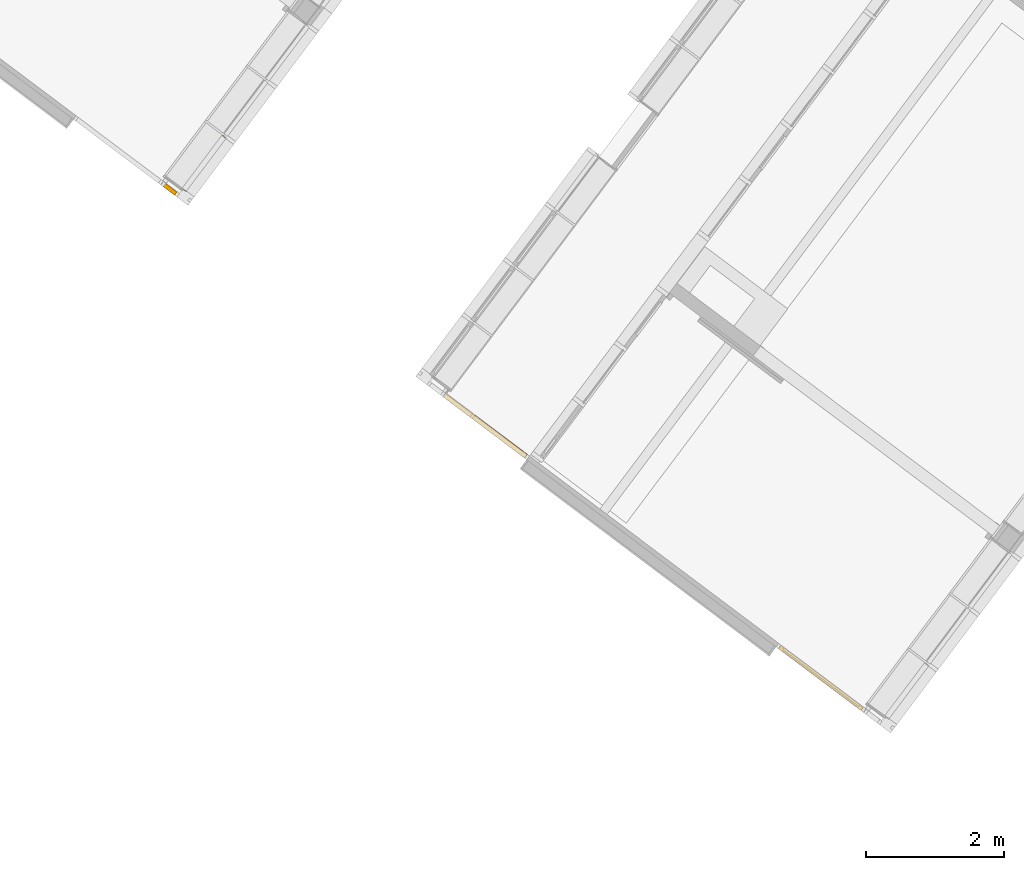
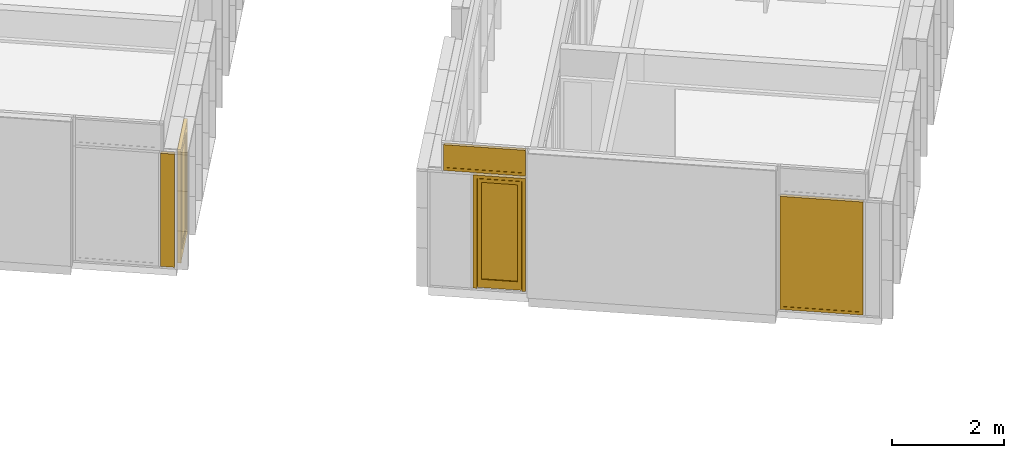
# One storey, part 173 of 243: 3 doors, 2 windows, 4 elements without a shape of their own.
"""IFC2X3 building model written with IfcOpenShell, lengths in metres."""

from ifc_helpers import new_model, entity, si_unit, converted_unit, derived_unit, direction, frame, origin, origin_2d_with_axis, place, context, subcontext, project, spatial, rectangle, extrude, faceted_brep, source, transform, mapped, material, material_list, type_object, type_shapes, element, aggregate, save


model = new_model("IFC2X3")

# Units and contexts
model_context = context("Model", 3, precision=1e-05, world=origin(), true_north=direction((6.123031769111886e-17, 1.0)))
body_context = subcontext(model_context, "Body", "Model", "MODEL_VIEW")
ifc_project = project(units=[si_unit("LENGTHUNIT", "METRE"), si_unit("AREAUNIT", "SQUARE_METRE"), si_unit("VOLUMEUNIT", "CUBIC_METRE"), converted_unit("PLANEANGLEUNIT", "DEGREE", entity("IfcRatioMeasure", 0.017453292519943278), si_unit("PLANEANGLEUNIT", "RADIAN"), dimensions=[0, 0, 0, 0, 0, 0, 0]), si_unit("MASSUNIT", "GRAM", prefix="KILO"), derived_unit("MASSDENSITYUNIT", [(si_unit("MASSUNIT", "GRAM", prefix="KILO"), 1), (si_unit("LENGTHUNIT", "METRE"), -3)]), derived_unit("IONCONCENTRATIONUNIT", [(si_unit("MASSUNIT", "GRAM", prefix="KILO"), 1), (si_unit("LENGTHUNIT", "METRE"), -3)]), derived_unit("MOMENTOFINERTIAUNIT", [(si_unit("LENGTHUNIT", "METRE"), 4)]), si_unit("TIMEUNIT", "SECOND"), si_unit("FREQUENCYUNIT", "HERTZ"), si_unit("THERMODYNAMICTEMPERATUREUNIT", "DEGREE_CELSIUS"), derived_unit("THERMALTRANSMITTANCEUNIT", [(si_unit("MASSUNIT", "GRAM", prefix="KILO"), 1), (si_unit("THERMODYNAMICTEMPERATUREUNIT", "KELVIN"), -1), (si_unit("TIMEUNIT", "SECOND"), -3)]), derived_unit("THERMALCONDUCTANCEUNIT", [(si_unit("MASSUNIT", "GRAM", prefix="KILO"), 1), (si_unit("THERMODYNAMICTEMPERATUREUNIT", "KELVIN"), -1), (si_unit("TIMEUNIT", "SECOND"), -3), (si_unit("LENGTHUNIT", "METRE"), 1)]), derived_unit("VOLUMETRICFLOWRATEUNIT", [(si_unit("LENGTHUNIT", "METRE"), 3), (si_unit("TIMEUNIT", "SECOND"), -1)]), derived_unit("MASSFLOWRATEUNIT", [(si_unit("MASSUNIT", "GRAM", prefix="KILO"), 1), (si_unit("TIMEUNIT", "SECOND"), -1)]), derived_unit("ROTATIONALFREQUENCYUNIT", [(si_unit("TIMEUNIT", "SECOND"), -1)]), si_unit("ELECTRICCURRENTUNIT", "AMPERE"), si_unit("ELECTRICVOLTAGEUNIT", "VOLT"), si_unit("POWERUNIT", "WATT"), si_unit("FORCEUNIT", "NEWTON", prefix="KILO"), si_unit("ILLUMINANCEUNIT", "LUX"), si_unit("LUMINOUSFLUXUNIT", "LUMEN"), si_unit("LUMINOUSINTENSITYUNIT", "CANDELA"), derived_unit("USERDEFINED", [(si_unit("MASSUNIT", "GRAM", prefix="KILO"), -1), (si_unit("LENGTHUNIT", "METRE"), -2), (si_unit("TIMEUNIT", "SECOND"), 3), (si_unit("LUMINOUSFLUXUNIT", "LUMEN"), 1)]), derived_unit("USERDEFINED", [(si_unit("MASSUNIT", "GRAM", prefix="KILO"), 1), (si_unit("TIMEUNIT", "SECOND"), -3), (si_unit("LENGTHUNIT", "METRE"), 3), (si_unit("ELECTRICCURRENTUNIT", "AMPERE"), -2)]), derived_unit("SOUNDPOWERUNIT", [(si_unit("MASSUNIT", "GRAM", prefix="KILO"), 1), (si_unit("TIMEUNIT", "SECOND"), -3), (si_unit("LENGTHUNIT", "METRE"), 2)]), derived_unit("SOUNDPRESSUREUNIT", [(si_unit("MASSUNIT", "GRAM", prefix="KILO"), 1), (si_unit("LENGTHUNIT", "METRE"), -1), (si_unit("TIMEUNIT", "SECOND"), -2)]), derived_unit("LINEARVELOCITYUNIT", [(si_unit("LENGTHUNIT", "METRE"), 1), (si_unit("TIMEUNIT", "SECOND"), -1)]), si_unit("PRESSUREUNIT", "PASCAL"), derived_unit("USERDEFINED", [(si_unit("MASSUNIT", "GRAM", prefix="KILO"), 1), (si_unit("LENGTHUNIT", "METRE"), -2), (si_unit("TIMEUNIT", "SECOND"), -2)]), derived_unit("LINEARFORCEUNIT", [(si_unit("MASSUNIT", "GRAM", prefix="KILO"), 1), (si_unit("TIMEUNIT", "SECOND"), -2)]), derived_unit("PLANARFORCEUNIT", [(si_unit("MASSUNIT", "GRAM", prefix="KILO"), 1), (si_unit("LENGTHUNIT", "METRE"), -1), (si_unit("TIMEUNIT", "SECOND"), -2)]), derived_unit("SPECIFICHEATCAPACITYUNIT", [(si_unit("THERMODYNAMICTEMPERATUREUNIT", "KELVIN"), -1), (si_unit("LENGTHUNIT", "METRE"), 2), (si_unit("TIMEUNIT", "SECOND"), -2)]), derived_unit("HEATINGVALUEUNIT", [(si_unit("LENGTHUNIT", "METRE"), 2), (si_unit("TIMEUNIT", "SECOND"), -2)]), derived_unit("VAPORPERMEABILITYUNIT", [(si_unit("LENGTHUNIT", "METRE"), -1), (si_unit("TIMEUNIT", "SECOND"), 1)]), derived_unit("DYNAMICVISCOSITYUNIT", [(si_unit("MASSUNIT", "GRAM", prefix="KILO"), 1), (si_unit("TIMEUNIT", "SECOND"), -1), (si_unit("LENGTHUNIT", "METRE"), -1)]), derived_unit("THERMALEXPANSIONCOEFFICIENTUNIT", [(si_unit("THERMODYNAMICTEMPERATUREUNIT", "KELVIN"), -1)]), derived_unit("MODULUSOFELASTICITYUNIT", [(si_unit("MASSUNIT", "GRAM", prefix="KILO"), 1), (si_unit("LENGTHUNIT", "METRE"), -1), (si_unit("TIMEUNIT", "SECOND"), -2)]), derived_unit("ISOTHERMALMOISTURECAPACITYUNIT", [(si_unit("LENGTHUNIT", "METRE"), 3), (si_unit("MASSUNIT", "GRAM", prefix="KILO"), -1)]), derived_unit("MOISTUREDIFFUSIVITYUNIT", [(si_unit("TIMEUNIT", "SECOND"), -1), (si_unit("LENGTHUNIT", "METRE"), 2)])], contexts=[model_context])

# Site, building, storey
site_placement = place(None, frame((0.0, 0.0, 235.0), z_axis=(0.0, 0.0, 1.0), x_axis=(-0.7996477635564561, 0.6004693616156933, 0.0)))
site = spatial("IfcSite", under=ifc_project, at=site_placement, Name="Default", CompositionType="ELEMENT")
building_placement = place(site_placement, origin())
building = spatial("IfcBuilding", under=site, at=building_placement, CompositionType="ELEMENT")
storey_placement = place(building_placement, origin())
storey = spatial("IfcBuildingStorey", under=building, at=storey_placement, Name="P0- Escola", CompositionType="ELEMENT", Elevation=0.0)

# Curtain wall, door
curtain_wall_type_1 = type_object("IfcCurtainWallType", Name="Muro cortina:MC- EXT- MC2", PredefinedType="NOTDEFINED")
curtain_wall_1_placement = place(storey_placement, origin())
curtain_wall_1 = element("IfcCurtainWall", 1, at=curtain_wall_1_placement, inside=storey, type_object=curtain_wall_type_1, Name="Muro cortina:MC- EXT- MC2", ObjectType="Muro cortina:MC- EXT- MC2")
ifc_material_1 = material(Name="_Alumini- T1- Perfil")
ifc_material_2 = material(Name="_Vidre")
ifc_material_list_1 = material_list([ifc_material_1, ifc_material_2])
door_style_1 = type_object("IfcDoorStyle", Name="MC- Alu- Conjunt porta- 70x60 cm- +15cm- obertura int:MC- Alu- Conjunt porta- 70x60 cm- +15cm- obertura int", ConstructionType="NOTDEFINED", OperationType="NOTDEFINED", ParameterTakesPrecedence=False, Sizeable=False, material=ifc_material_list_1)
shared_shape_1 = source(origin(), body_context, "Body", "Brep", [
    faceted_brep([(0.411699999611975, 0.0, 0.024000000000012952), (0.411699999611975, -0.0656997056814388, 0.024000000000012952), (-0.41169999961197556, -0.06569970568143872, 0.024000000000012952), (-0.41169999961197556, 0.0, 0.024000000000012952), (0.41169999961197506, -0.0656997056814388, 2.410449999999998), (0.41169999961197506, 0.0, 2.410449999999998), (-0.41169999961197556, -0.06569970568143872, 2.410449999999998), (-0.4356999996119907, -0.06569970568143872, 0.0), (-0.4356999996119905, -0.06569970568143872, 2.4344500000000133), (0.4356999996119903, -0.06569970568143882, 2.4344500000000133), (0.4356999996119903, -0.0656997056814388, 0.0), (-0.41169999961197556, 0.0, 2.410449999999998), (0.33509999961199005, 0.0, 2.333850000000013), (-0.33509999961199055, 0.0, 2.3338500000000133), (-0.33509999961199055, 0.0, 0.20400000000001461), (0.33509999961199, 0.0, 0.20400000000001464), (-0.4356999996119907, -0.06999970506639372, 2.4344500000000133), (-0.4356999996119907, -0.0699997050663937, 0.0), (0.4356999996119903, -0.06999970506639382, 0.0), (0.43569999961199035, -0.06999970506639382, 2.4344500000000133), (-0.33509999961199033, -0.06999970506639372, 2.333850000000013), (0.33509999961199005, -0.06999970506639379, 2.333850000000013), (0.33509999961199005, -0.0699997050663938, 0.20400000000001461), (-0.33509999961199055, -0.06999970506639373, 0.20400000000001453), (-0.3350999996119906, -0.06449970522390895, 2.333850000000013), (-0.3350999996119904, -0.06449970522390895, 0.20400000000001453), (0.33509999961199, -0.06449970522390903, 0.20400000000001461), (0.33509999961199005, -0.06449970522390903, 2.333850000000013), (-0.36010000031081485, -0.06449970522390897, 2.3588500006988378), (0.3601000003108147, -0.06449970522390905, 2.3588500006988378), (0.3601000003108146, -0.06449970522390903, 0.17899999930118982), (-0.36010000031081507, -0.06449970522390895, 0.17899999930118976), (-0.3601000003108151, -0.018999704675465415, 2.3588500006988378), (-0.36010000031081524, -0.01899970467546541, 0.17899999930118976), (0.36010000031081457, -0.01899970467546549, 0.17899999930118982), (0.36010000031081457, -0.01899970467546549, 2.3588500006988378), (-0.33509999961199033, -0.018999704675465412, 2.333850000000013), (0.33509999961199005, -0.018999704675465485, 2.333850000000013), (0.33509999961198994, -0.01899970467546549, 0.20400000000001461), (-0.33509999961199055, -0.018999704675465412, 0.20400000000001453)], [[[0, 1, 2, 3]], [[4, 1, 0, 5]], [[2, 1, 4, 6], [7, 8, 9, 10]], [[2, 6, 11, 3]], [[12, 13, 14, 15], [11, 5, 0, 3]], [[16, 8, 7, 17]], [[10, 18, 17, 7]], [[18, 19, 16, 17], [20, 21, 22, 23]], [[24, 20, 23, 25]], [[23, 22, 26, 25]], [[27, 24, 25, 26], [28, 29, 30, 31]], [[32, 28, 31, 33]], [[33, 31, 30, 34]], [[35, 32, 33, 34], [36, 37, 38, 39]], [[13, 36, 39, 14]], [[39, 38, 15, 14]], [[9, 19, 18, 10]], [[21, 27, 26, 22]], [[29, 35, 34, 30]], [[37, 12, 15, 38]], [[19, 9, 8, 16]], [[27, 21, 20, 24]], [[35, 29, 28, 32]], [[12, 37, 36, 13]], [[4, 5, 11, 6]]], outer=[[True], [True], [False, True], [True], [False, True], [True], [True], [True, False], [True], [True], [False, True], [True], [True], [True, False], [True], [True], [True], [True], [True], [True], [True], [True], [True], [True], [True]]),
    faceted_brep([(-0.36010000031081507, -0.06089980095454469, 0.17899999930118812), (-0.36010000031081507, -0.02889980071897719, 0.17899999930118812), (0.3601000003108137, -0.028899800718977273, 0.17899999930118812), (0.3601000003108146, -0.06089980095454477, 0.17899999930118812), (-0.36010000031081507, -0.06089980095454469, 2.3588500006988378), (-0.36010000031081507, -0.028899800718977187, 2.3588500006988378), (0.3601000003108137, -0.028899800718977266, 2.3588500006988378), (0.3601000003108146, -0.06089980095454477, 2.3588500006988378)], [[[0, 1, 2, 3]], [[4, 5, 1, 0]], [[5, 6, 2, 1]], [[6, 7, 3, 2]], [[7, 4, 0, 3]], [[4, 7, 6, 5]]]),
    faceted_brep([(0.4849999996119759, -0.06999999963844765, 0.0), (0.44369999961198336, -0.06999999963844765, 0.0), (0.44369999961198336, -0.059699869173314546, 0.0), (0.4331999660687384, -0.059699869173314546, 0.0), (0.4331999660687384, -0.008800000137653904, 0.0), (0.4176999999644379, -0.008800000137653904, 0.0), (0.4176999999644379, 0.0, 0.0), (0.4849999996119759, 0.0, 0.0), (0.4849999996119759, -0.06999999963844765, 2.4837499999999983), (-0.4849999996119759, -0.06999999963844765, 2.4837499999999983), (-0.4849999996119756, -0.06999999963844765, 0.0), (-0.4436999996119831, -0.06999999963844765, 0.0), (-0.4436999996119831, -0.06999999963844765, 2.442450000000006), (0.44369999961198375, -0.06999999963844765, 2.4424500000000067), (0.44369999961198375, -0.059699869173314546, 2.4424500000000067), (-0.44369999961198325, -0.059699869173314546, 2.442450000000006), (-0.44369999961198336, -0.059699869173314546, 0.0), (-0.4331999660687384, -0.059699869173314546, 0.0), (-0.4331999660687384, -0.059699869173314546, 2.4319499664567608), (0.4331999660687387, -0.059699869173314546, 2.431949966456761), (0.4331999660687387, -0.008800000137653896, 2.431949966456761), (-0.4331999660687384, -0.008800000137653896, 2.4319499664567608), (-0.4331999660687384, -0.008800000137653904, 0.0), (-0.4176999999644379, -0.008800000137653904, 0.0), (-0.4176999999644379, -0.008800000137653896, 2.4164500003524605), (0.417699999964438, -0.008800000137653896, 2.4164500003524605), (0.417699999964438, 0.0, 2.4164500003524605), (-0.4176999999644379, 0.0, 2.4164500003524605), (-0.4176999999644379, 0.0, 0.0), (-0.4849999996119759, 0.0, 0.0), (-0.4849999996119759, 0.0, 2.4837499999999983), (0.48499999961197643, 0.0, 2.4837499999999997)], [[[0, 1, 2, 3, 4, 5, 6, 7]], [[1, 0, 8, 9, 10, 11, 12, 13]], [[2, 1, 13, 14]], [[3, 2, 14, 15, 16, 17, 18, 19]], [[4, 3, 19, 20]], [[5, 4, 20, 21, 22, 23, 24, 25]], [[6, 5, 25, 26]], [[7, 6, 26, 27, 28, 29, 30, 31]], [[0, 7, 31, 8]], [[10, 29, 28, 23, 22, 17, 16, 11]], [[9, 30, 29, 10]], [[27, 24, 23, 28]], [[21, 18, 17, 22]], [[15, 12, 11, 16]], [[14, 13, 12, 15]], [[20, 19, 18, 21]], [[26, 25, 24, 27]], [[8, 31, 30, 9]]]),
])
type_shapes(door_style_1, [shared_shape_1])
door_1_placement = place(curtain_wall_1_placement, frame((66.44514768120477, -20.91519175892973, 0.020000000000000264), z_axis=(0.0, 0.0, 1.0), x_axis=(0.0, 1.0, 0.0)))
door_1 = element("IfcDoor", 2, at=door_1_placement, type_object=door_style_1, material=ifc_material_list_1, Name="MC- Alu- Conjunt porta- 70x60 cm- +15cm- obertura int:MC- Alu- Conjunt porta- 70x60 cm- +15cm- obertura int", ObjectType="MC- Alu- Conjunt porta- 70x60 cm- +15cm- obertura int:MC- Alu- Conjunt porta- 70x60 cm- +15cm- obertura int", OverallHeight=2.483750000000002, OverallWidth=0.9699999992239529, context=body_context, shape_type="MappedRepresentation", body=[
    mapped(shared_shape_1, transform((0.0, 0.0, 0.0), scale=1.0)),
])
aggregate(curtain_wall_1, [door_1])

# Curtain wall, door, window
curtain_wall_type_2 = type_object("IfcCurtainWallType", Name="Muro cortina:MC- EXT- AL1- Fa porxo", PredefinedType="NOTDEFINED")
curtain_wall_2_placement = place(storey_placement, origin())
curtain_wall_2 = element("IfcCurtainWall", 3, at=curtain_wall_2_placement, inside=storey, type_object=curtain_wall_type_2, Name="Muro cortina:MC- EXT- AL1- Fa porxo", ObjectType="Muro cortina:MC- EXT- AL1- Fa porxo")
door_style_2 = type_object("IfcDoorStyle", Name="MC- Alu- Conjunt porta- 70x60 cm- +15cm- obertura int:MC- Alu- Conjunt porta- 70x60 cm- +15cm- obertura int", ConstructionType="NOTDEFINED", OperationType="NOTDEFINED", ParameterTakesPrecedence=False, Sizeable=False, material=ifc_material_list_1)
shared_shape_2 = source(origin(), body_context, "Body", "Brep", [
    faceted_brep([(-0.3984499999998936, 0.0, 0.024000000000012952), (0.39844999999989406, 0.0, 0.024000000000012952), (0.39844999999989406, -0.06569970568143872, 0.024000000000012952), (-0.3984499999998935, -0.0656997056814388, 0.024000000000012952), (-0.3984499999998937, -0.0656997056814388, 2.397949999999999), (-0.3984499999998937, 0.0, 2.397949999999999), (0.39844999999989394, -0.06569970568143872, 2.397949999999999), (0.4224499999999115, -0.06569970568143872, 0.0), (-0.42244999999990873, -0.0656997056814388, 0.0), (-0.4224499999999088, -0.0656997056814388, 2.421950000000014), (0.4224499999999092, -0.06569970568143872, 2.421950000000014), (0.39844999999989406, 0.0, 2.397949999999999), (-0.32184999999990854, 0.0, 2.3213500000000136), (-0.3218499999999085, 0.0, 0.20400000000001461), (0.32184999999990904, 0.0, 0.20400000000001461), (0.32184999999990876, 0.0, 2.3213500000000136), (0.4224499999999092, -0.0699997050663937, 2.421950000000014), (0.4224499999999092, -0.0699997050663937, 0.0), (-0.42244999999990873, -0.0699997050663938, 0.0), (-0.4224499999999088, -0.0699997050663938, 2.421950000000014), (0.32184999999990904, -0.06999970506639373, 2.321350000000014), (0.321849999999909, -0.06999970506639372, 0.20400000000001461), (-0.3218499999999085, -0.06999970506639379, 0.20400000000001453), (-0.32184999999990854, -0.06999970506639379, 2.3213500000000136), (0.3218499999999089, -0.06449970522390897, 2.3213500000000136), (0.32184999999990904, -0.06449970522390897, 0.20400000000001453), (-0.3218499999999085, -0.06449970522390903, 0.20400000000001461), (-0.32184999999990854, -0.06449970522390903, 2.3213500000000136), (0.34685000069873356, -0.06449970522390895, 2.3463500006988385), (0.34685000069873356, -0.06449970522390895, 0.17899999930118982), (-0.34685000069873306, -0.06449970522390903, 0.17899999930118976), (-0.34685000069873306, -0.06449970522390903, 2.346350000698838), (0.34685000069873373, -0.018999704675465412, 2.3463500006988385), (0.34685000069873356, -0.01899970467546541, 0.17899999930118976), (-0.34685000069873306, -0.018999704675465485, 0.17899999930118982), (-0.34685000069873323, -0.01899970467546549, 2.346350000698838), (0.32184999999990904, -0.018999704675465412, 2.321350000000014), (0.3218499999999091, -0.018999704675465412, 0.20400000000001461), (-0.3218499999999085, -0.018999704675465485, 0.20400000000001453), (-0.32184999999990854, -0.018999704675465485, 2.3213500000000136)], [[[0, 1, 2, 3]], [[4, 5, 0, 3]], [[2, 6, 4, 3], [7, 8, 9, 10]], [[2, 1, 11, 6]], [[11, 1, 0, 5], [12, 13, 14, 15]], [[16, 17, 7, 10]], [[8, 7, 17, 18]], [[18, 17, 16, 19], [20, 21, 22, 23]], [[24, 25, 21, 20]], [[21, 25, 26, 22]], [[27, 26, 25, 24], [28, 29, 30, 31]], [[32, 33, 29, 28]], [[33, 34, 30, 29]], [[35, 34, 33, 32], [36, 37, 38, 39]], [[15, 14, 37, 36]], [[37, 14, 13, 38]], [[9, 8, 18, 19]], [[23, 22, 26, 27]], [[31, 30, 34, 35]], [[39, 38, 13, 12]], [[19, 16, 10, 9]], [[27, 24, 20, 23]], [[35, 32, 28, 31]], [[12, 15, 36, 39]], [[4, 6, 11, 5]]], outer=[[True], [True], [False, True], [True], [True, False], [True], [True], [True, False], [True], [True], [False, True], [True], [True], [True, False], [True], [True], [True], [True], [True], [True], [True], [True], [True], [True], [True]]),
    faceted_brep([(0.34685000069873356, -0.060899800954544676, 0.17899999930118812), (-0.3468500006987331, -0.06089980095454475, 0.17899999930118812), (-0.3468500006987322, -0.028899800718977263, 0.17899999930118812), (0.34685000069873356, -0.028899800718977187, 0.17899999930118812), (0.34685000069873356, -0.060899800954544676, 2.3463500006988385), (0.34685000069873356, -0.028899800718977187, 2.3463500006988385), (-0.3468500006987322, -0.028899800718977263, 2.3463500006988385), (-0.3468500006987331, -0.06089980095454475, 2.3463500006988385)], [[[0, 1, 2, 3]], [[4, 0, 3, 5]], [[5, 3, 2, 6]], [[6, 2, 1, 7]], [[7, 1, 0, 4]], [[4, 5, 6, 7]]]),
    faceted_brep([(-0.47174999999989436, -0.06999999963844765, 0.0), (-0.47174999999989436, 0.0, 0.0), (-0.4044500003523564, 0.0, 0.0), (-0.4044500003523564, -0.008800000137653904, 0.0), (-0.4199499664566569, -0.008800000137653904, 0.0), (-0.4199499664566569, -0.059699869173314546, 0.0), (-0.43044999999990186, -0.059699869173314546, 0.0), (-0.43044999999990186, -0.06999999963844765, 0.0), (-0.43044999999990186, -0.06999999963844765, 2.4299500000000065), (0.43044999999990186, -0.06999999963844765, 2.4299500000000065), (0.43044999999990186, -0.06999999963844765, 0.0), (0.47174999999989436, -0.06999999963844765, 0.0), (0.47174999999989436, -0.06999999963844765, 2.471249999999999), (-0.4717499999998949, -0.06999999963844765, 2.4712500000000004), (-0.43044999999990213, -0.059699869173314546, 2.4299500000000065), (-0.4199499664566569, -0.059699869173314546, 2.4194499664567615), (0.4199499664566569, -0.059699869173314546, 2.4194499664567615), (0.4199499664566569, -0.059699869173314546, 0.0), (0.43044999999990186, -0.059699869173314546, 0.0), (0.43044999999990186, -0.059699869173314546, 2.4299500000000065), (-0.41994996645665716, -0.008800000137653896, 2.4194499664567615), (-0.4044500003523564, -0.008800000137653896, 2.403950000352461), (0.4044500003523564, -0.008800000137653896, 2.403950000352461), (0.4044500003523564, -0.008800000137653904, 0.0), (0.4199499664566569, -0.008800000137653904, 0.0), (0.4199499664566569, -0.008800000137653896, 2.4194499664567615), (-0.4044500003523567, 0.0, 2.403950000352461), (-0.47174999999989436, 0.0, 2.471249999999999), (0.47174999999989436, 0.0, 2.471249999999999), (0.47174999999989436, 0.0, 0.0), (0.4044500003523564, 0.0, 0.0), (0.4044500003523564, 0.0, 2.403950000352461)], [[[0, 1, 2, 3, 4, 5, 6, 7]], [[7, 8, 9, 10, 11, 12, 13, 0]], [[6, 14, 8, 7]], [[5, 15, 16, 17, 18, 19, 14, 6]], [[4, 20, 15, 5]], [[3, 21, 22, 23, 24, 25, 20, 4]], [[2, 26, 21, 3]], [[1, 27, 28, 29, 30, 31, 26, 2]], [[0, 13, 27, 1]], [[11, 10, 18, 17, 24, 23, 30, 29]], [[12, 11, 29, 28]], [[31, 30, 23, 22]], [[25, 24, 17, 16]], [[19, 18, 10, 9]], [[14, 19, 9, 8]], [[20, 25, 16, 15]], [[26, 31, 22, 21]], [[13, 12, 28, 27]]]),
])
type_shapes(door_style_2, [shared_shape_2])
door_2_placement = place(curtain_wall_2_placement, frame((60.69289768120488, -20.288941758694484, 0.020999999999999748)))
door_2 = element("IfcDoor", 4, at=door_2_placement, type_object=door_style_2, material=ifc_material_list_1, Name="MC- Alu- Conjunt porta- 70x60 cm- +15cm- obertura int:MC- Alu- Conjunt porta- 70x60 cm- +15cm- obertura int", ObjectType="MC- Alu- Conjunt porta- 70x60 cm- +15cm- obertura int:MC- Alu- Conjunt porta- 70x60 cm- +15cm- obertura int", OverallHeight=2.4712500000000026, OverallWidth=0.9434999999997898, context=body_context, shape_type="MappedRepresentation", body=[
    mapped(shared_shape_2, transform((0.0, 0.0, 0.0), scale=1.0)),
])
ifc_material_list_2 = material_list([ifc_material_2, ifc_material_1])
window_style_1 = type_object("IfcWindowStyle", Name="MC- Alu- Conjunt vidre fix- 62x60 cm:MC- Alu- Conjunt vidre fix- 62x60 cm", ConstructionType="NOTDEFINED", OperationType="NOTDEFINED", ParameterTakesPrecedence=False, Sizeable=False, material=ifc_material_list_2)
shared_shape_3 = source(origin(), body_context, "Body", "Brep", [
    faceted_brep([(0.6896099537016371, -0.007600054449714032, 0.048806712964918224), (0.6896099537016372, -0.03160022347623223, 0.048806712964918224), (-0.6896099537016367, -0.03160022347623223, 0.048806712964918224), (-0.689609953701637, -0.007600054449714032, 0.048806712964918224), (0.6896099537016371, -0.007600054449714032, 0.5147500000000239), (-0.6896099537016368, -0.007600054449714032, 0.5147500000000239), (-0.6896099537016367, -0.03160022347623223, 0.5147500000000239), (0.6896099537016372, -0.03160022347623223, 0.5147500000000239)], [[[0, 1, 2, 3]], [[4, 0, 3, 5]], [[5, 3, 2, 6]], [[6, 2, 1, 7]], [[7, 1, 0, 4]], [[4, 5, 6, 7]]]),
    faceted_brep([(0.7384166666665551, -0.05999999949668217, 0.563750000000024), (0.7384166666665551, -0.05999999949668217, 0.0), (0.7384166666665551, 0.0, 0.0), (0.7384166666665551, 0.0, 0.563750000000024), (-0.7384166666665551, 0.0, 0.563750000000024), (-0.7384166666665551, 0.0, 0.0), (0.6756098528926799, 0.0, 0.5009431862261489), (-0.6756098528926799, 0.0, 0.5009431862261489), (-0.6756098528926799, 0.0, 0.06280681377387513), (0.6756098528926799, 0.0, 0.06280681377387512), (-0.7384166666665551, -0.05999999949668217, 0.0), (-0.7384166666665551, -0.05999999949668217, 0.563750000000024), (-0.6756126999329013, -0.05999999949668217, 0.5009460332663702), (0.6756126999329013, -0.05999999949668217, 0.5009460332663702), (0.6756126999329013, -0.05999999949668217, 0.06280396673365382), (-0.6756126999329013, -0.05999999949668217, 0.06280396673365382), (0.6756126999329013, -0.03160022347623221, 0.5009460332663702), (0.6756126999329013, -0.03160022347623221, 0.06280396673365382), (-0.6756126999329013, -0.03160022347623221, 0.06280396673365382), (-0.6756126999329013, -0.03160022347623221, 0.5009460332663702), (-0.689609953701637, -0.03160022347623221, 0.5149432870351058), (0.689609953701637, -0.03160022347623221, 0.5149432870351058), (0.689609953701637, -0.03160022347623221, 0.048806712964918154), (-0.689609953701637, -0.03160022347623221, 0.04880671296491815), (0.689609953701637, -0.007600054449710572, 0.5149432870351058), (0.689609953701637, -0.007600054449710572, 0.04880671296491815), (-0.689609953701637, -0.007600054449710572, 0.048806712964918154), (-0.689609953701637, -0.007600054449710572, 0.5149432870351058), (-0.6756098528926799, -0.007600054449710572, 0.5009431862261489), (0.6756098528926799, -0.007600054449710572, 0.5009431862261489), (0.6756098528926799, -0.007600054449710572, 0.06280681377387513), (-0.6756098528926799, -0.007600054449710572, 0.06280681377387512)], [[[0, 1, 2, 3]], [[4, 3, 2, 5], [6, 7, 8, 9]], [[1, 10, 5, 2]], [[0, 11, 10, 1], [12, 13, 14, 15]], [[16, 17, 14, 13]], [[17, 18, 15, 14]], [[16, 19, 18, 17], [20, 21, 22, 23]], [[24, 25, 22, 21]], [[25, 26, 23, 22]], [[24, 27, 26, 25], [28, 29, 30, 31]], [[6, 9, 30, 29]], [[9, 8, 31, 30]], [[10, 11, 4, 5]], [[18, 19, 12, 15]], [[26, 27, 20, 23]], [[8, 7, 28, 31]], [[11, 0, 3, 4]], [[19, 16, 13, 12]], [[27, 24, 21, 20]], [[7, 6, 29, 28]]], outer=[[True], [True, False], [True], [True, False], [True], [True], [False, True], [True], [True], [True, False], [True], [True], [True], [True], [True], [True], [True], [True], [True], [True]]),
])
type_shapes(window_style_1, [shared_shape_3])
window_1_placement = place(curtain_wall_2_placement, frame((60.95956434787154, -20.288941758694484, 2.54525)))
window_1 = element("IfcWindow", 5, at=window_1_placement, type_object=window_style_1, material=ifc_material_list_2, Name="MC- Alu- Conjunt vidre fix- 62x60 cm:MC- Alu- Conjunt vidre fix- 62x60 cm", ObjectType="MC- Alu- Conjunt vidre fix- 62x60 cm:MC- Alu- Conjunt vidre fix- 62x60 cm", OverallHeight=0.563750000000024, OverallWidth=1.4768333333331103, context=body_context, shape_type="MappedRepresentation", body=[
    mapped(shared_shape_3, transform((0.0, 0.0, 0.0), scale=1.0)),
])
aggregate(curtain_wall_2, [door_2, window_1])

# Curtain wall, door
curtain_wall_3_placement = place(storey_placement, origin())
curtain_wall_3 = element("IfcCurtainWall", 6, at=curtain_wall_3_placement, inside=storey, type_object=curtain_wall_type_2, Name="Muro cortina:MC- EXT- AL1- Fa porxo", ObjectType="Muro cortina:MC- EXT- AL1- Fa porxo")
ifc_material_3 = material(Name="_Aillament")
ifc_material_list_3 = material_list([ifc_material_1, ifc_material_3])
door_style_3 = type_object("IfcDoorStyle", Name="MC- Alu- panell especific xapa:MC- Alu- panell especific xapa", ConstructionType="NOTDEFINED", OperationType="NOTDEFINED", ParameterTakesPrecedence=False, Sizeable=False, material=ifc_material_list_3)
shared_shape_4 = source(origin(), body_context, "Body", "SweptSolid", [
    extrude(rectangle(XDim=0.005999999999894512, YDim=0.2529999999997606, at=origin_2d_with_axis()), frame((0.0, -0.057000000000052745, 0.0), z_axis=(0.0, 0.0, 1.0), x_axis=(0.0, -1.0, 0.0)), (0.0, 0.0, 1.0), 2.4712499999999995),
    extrude(rectangle(XDim=0.2529999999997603, YDim=0.048000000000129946, at=origin_2d_with_axis()), frame((0.0, -0.030000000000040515, 0.0)), (0.0, 0.0, 1.0), 2.4712499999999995),
    extrude(rectangle(XDim=0.005999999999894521, YDim=0.25299999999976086, at=origin_2d_with_axis()), frame((0.0, -0.003000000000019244, 0.0), z_axis=(0.0, 0.0, 1.0), x_axis=(0.0, -1.0, 0.0)), (0.0, 0.0, 1.0), 2.4712499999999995),
])
type_shapes(door_style_3, [shared_shape_4])
door_3_placement = place(curtain_wall_3_placement, frame((66.67264768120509, -20.28894175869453, 0.02099999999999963)))
door_3 = element("IfcDoor", 7, at=door_3_placement, type_object=door_style_3, material=ifc_material_list_3, Name="MC- Alu- panell especific xapa:MC- Alu- panell especific xapa", ObjectType="MC- Alu- panell especific xapa:MC- Alu- panell especific xapa", OverallHeight=2.4712499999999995, OverallWidth=0.252999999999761, context=body_context, shape_type="MappedRepresentation", body=[
    mapped(shared_shape_4, transform((0.0, 0.0, 0.0), scale=1.0)),
])
aggregate(curtain_wall_3, [door_3])

# Curtain wall, window
curtain_wall_4_placement = place(storey_placement, origin())
curtain_wall_4 = element("IfcCurtainWall", 8, at=curtain_wall_4_placement, inside=storey, type_object=curtain_wall_type_2, Name="Muro cortina:MC- EXT- AL1- Fa porxo", ObjectType="Muro cortina:MC- EXT- AL1- Fa porxo")
window_style_2 = type_object("IfcWindowStyle", Name="MC- Alu- Conjunt vidre fix- 62x60 cm:MC- Alu- Conjunt vidre fix- 62x60 cm", ConstructionType="NOTDEFINED", OperationType="NOTDEFINED", ParameterTakesPrecedence=False, Sizeable=False, material=ifc_material_list_2)
shared_shape_5 = source(origin(), body_context, "Body", "Brep", [
    faceted_brep([(-0.698191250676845, -0.007600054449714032, 0.048806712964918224), (0.6981912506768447, -0.007600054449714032, 0.048806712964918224), (0.6981912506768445, -0.03160022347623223, 0.048806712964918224), (-0.6981912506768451, -0.03160022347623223, 0.048806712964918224), (-0.6981912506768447, -0.007600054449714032, 2.4222499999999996), (0.6981912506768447, -0.007600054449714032, 2.4222499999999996), (0.6981912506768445, -0.03160022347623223, 2.4222499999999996), (-0.6981912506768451, -0.03160022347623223, 2.4222499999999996)], [[[0, 1, 2, 3]], [[4, 5, 1, 0]], [[5, 6, 2, 1]], [[6, 7, 3, 2]], [[7, 4, 0, 3]], [[4, 7, 6, 5]]]),
    faceted_brep([(-0.746997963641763, -0.05999999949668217, 2.4712499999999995), (-0.746997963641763, 0.0, 2.4712499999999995), (-0.746997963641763, 0.0, 0.0), (-0.746997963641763, -0.05999999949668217, 0.0), (-0.6841911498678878, 0.0, 2.4084431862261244), (-0.6841911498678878, 0.0, 0.06280681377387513), (0.6841911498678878, 0.0, 0.06280681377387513), (0.6841911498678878, 0.0, 2.4084431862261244), (0.746997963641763, 0.0, 2.4712499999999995), (0.746997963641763, 0.0, 0.0), (0.746997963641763, -0.05999999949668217, 0.0), (0.746997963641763, -0.05999999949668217, 2.4712499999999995), (0.684193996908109, -0.05999999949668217, 2.4084460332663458), (0.6841939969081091, -0.05999999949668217, 0.06280396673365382), (-0.684193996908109, -0.05999999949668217, 0.06280396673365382), (-0.6841939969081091, -0.05999999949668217, 2.4084460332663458), (-0.6841939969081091, -0.03160022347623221, 2.4084460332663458), (-0.6841939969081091, -0.03160022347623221, 0.06280396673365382), (0.6841939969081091, -0.03160022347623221, 0.06280396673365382), (0.6841939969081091, -0.03160022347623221, 2.4084460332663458), (0.6981912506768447, -0.03160022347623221, 2.4224432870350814), (0.6981912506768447, -0.03160022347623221, 0.048806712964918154), (-0.6981912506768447, -0.03160022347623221, 0.04880671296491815), (-0.6981912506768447, -0.03160022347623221, 2.4224432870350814), (-0.6981912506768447, -0.007600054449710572, 2.4224432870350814), (-0.6981912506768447, -0.007600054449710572, 0.04880671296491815), (0.6981912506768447, -0.007600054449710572, 0.048806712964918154), (0.6981912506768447, -0.007600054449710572, 2.4224432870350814), (0.6841911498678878, -0.007600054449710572, 2.4084431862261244), (0.6841911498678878, -0.007600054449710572, 0.06280681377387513), (-0.6841911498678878, -0.007600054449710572, 0.06280681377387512), (-0.6841911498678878, -0.007600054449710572, 2.4084431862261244)], [[[0, 1, 2, 3]], [[4, 5, 6, 7], [8, 9, 2, 1]], [[3, 2, 9, 10]], [[0, 3, 10, 11], [12, 13, 14, 15]], [[16, 15, 14, 17]], [[17, 14, 13, 18]], [[16, 17, 18, 19], [20, 21, 22, 23]], [[24, 23, 22, 25]], [[25, 22, 21, 26]], [[24, 25, 26, 27], [28, 29, 30, 31]], [[4, 31, 30, 5]], [[5, 30, 29, 6]], [[10, 9, 8, 11]], [[18, 13, 12, 19]], [[26, 21, 20, 27]], [[6, 29, 28, 7]], [[11, 8, 1, 0]], [[19, 12, 15, 16]], [[27, 20, 23, 24]], [[7, 28, 31, 4]]], outer=[[True], [False, True], [True], [True, False], [True], [True], [False, True], [True], [True], [True, False], [True], [True], [True], [True], [True], [True], [True], [True], [True], [True]]),
])
type_shapes(window_style_2, [shared_shape_5])
window_2_placement = place(curtain_wall_4_placement, frame((54.88714564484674, -20.288941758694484, 0.02099999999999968)))
window_2 = element("IfcWindow", 9, at=window_2_placement, type_object=window_style_2, material=ifc_material_list_2, Name="MC- Alu- Conjunt vidre fix- 62x60 cm:MC- Alu- Conjunt vidre fix- 62x60 cm", ObjectType="MC- Alu- Conjunt vidre fix- 62x60 cm:MC- Alu- Conjunt vidre fix- 62x60 cm", OverallHeight=2.4712499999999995, OverallWidth=1.493995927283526, context=body_context, shape_type="MappedRepresentation", body=[
    mapped(shared_shape_5, transform((0.0, 0.0, 0.0), scale=1.0)),
])
aggregate(curtain_wall_4, [window_2])

save(model, "model.ifc")
